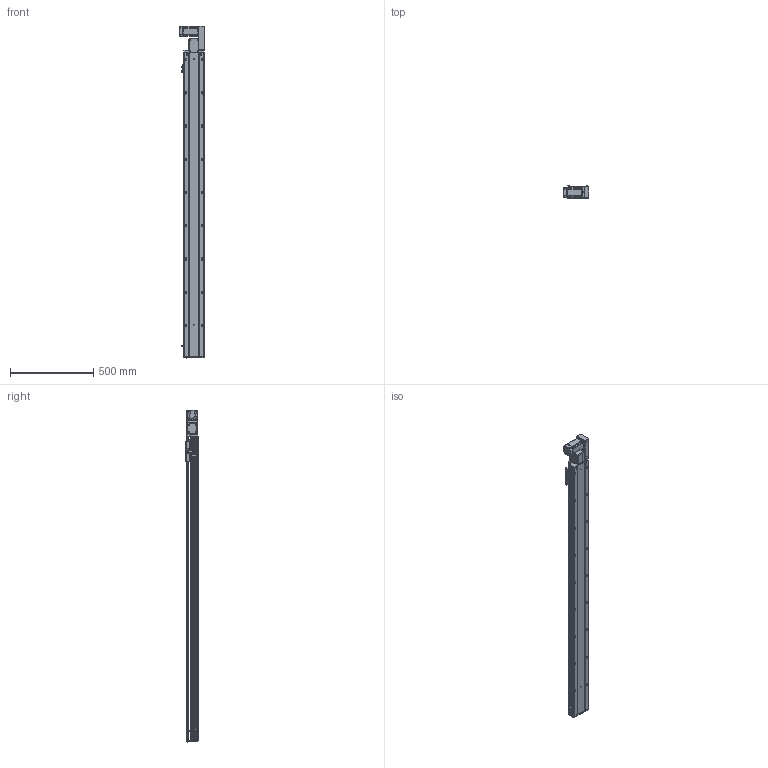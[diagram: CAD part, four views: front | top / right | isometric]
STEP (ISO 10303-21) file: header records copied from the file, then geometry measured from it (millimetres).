
FILE_DESCRIPTION (( 'STEP AP203' ), '1' );
FILE_NAME ('RY120-T-300-RK.SLDASM_1600.step', '2021-03-01T03:54:38', ( '盈信电脑' ), ( '东莞市道滘镇水果街19号' ), 'SwSTEP 2.0', 'SolidWorks 2012', '' );
FILE_SCHEMA (( 'CONFIG_CONTROL_DESIGN' ));
Length unit declared in the file: millimetre
Products named in the file (17): RY120-T萇儂欶; RY120-T-300-RK.SLDASM_1600; RY120-T主同步轮轴承压盖; RY120-T翋肮祭謫裔啣; RY120-T萇儂假蚾啣; 15; RY120-T蹟翐M4; RY120-T肮祭湍揤踡輸1; RY120-T肮祭湍揤踡輸2; 滅袉蝶18-10; RY120-T翋肮祭盓傅釱; RY120外置感应片(140共用）; 覜茼ん672; RY120綴裔啣; RY120肮祭湍臏賑輸; RY120-T-300-RK倰第奻裔啣_1600; RY120-T-300-RK倰第菁釱_1600
Assembly tree (22 placements, depth 2):
  RY120-T-300-RK.SLDASM_1600
    RY120-T-300-RK倰第菁釱_1600
    RY120-T-300-RK倰第奻裔啣_1600
    RY120肮祭湍臏賑輸
    RY120綴裔啣
    覜茼ん672  x3
    RY120外置感应片(140共用）
    RY120-T肮祭湍揤踡輸1
    RY120-T肮祭湍揤踡輸2
    RY120-T翋肮祭盓傅釱
    滅袉蝶18-10  x2
    RY120-T翋肮祭謫裔啣
    15
    RY120-T萇儂假蚾啣
    RY120-T蹟翐M4  x4
    RY120-T萇儂欶
    RY120-T主同步轮轴承压盖
Bounding box: 155.5 x 73 x 1997.5 mm (x, y, z)
Volume: 4931577.4 mm3; surface area: 1870950 mm2
Topology: 23 solids, 23 shells, 2976 faces, 8124 edges, 5186 vertices
Faces by surface type: plane 1432, cylinder 1162, cone 293, bspline 89
Entity records: 95093 total; most frequent: CARTESIAN_POINT 24480, ORIENTED_EDGE 14592, DIRECTION 13806, EDGE_CURVE 7296, VERTEX_POINT 4773, AXIS2_PLACEMENT_3D 4663, VECTOR 4480, LINE 4480
